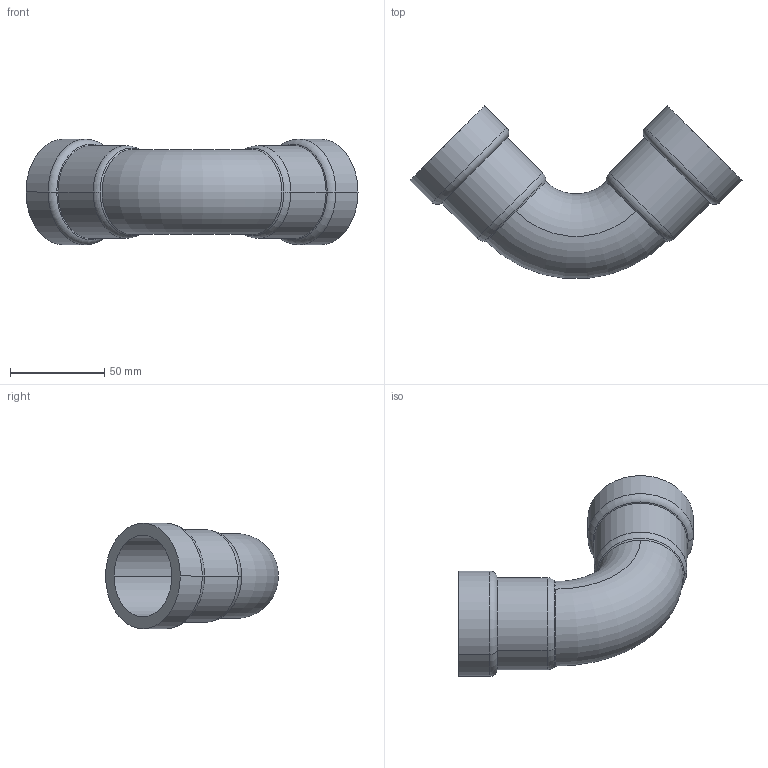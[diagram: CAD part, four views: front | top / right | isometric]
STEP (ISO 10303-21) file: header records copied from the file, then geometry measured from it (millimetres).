
FILE_DESCRIPTION(('Creo Elements/Direct Modeling STEP Export'),'2;1');
FILE_NAME('C9408_1-1-4.stp','2020-06-23T14:52:43',(''),(''),'PTC Creo Elements/Direct Modeling STEP processor for AP214 (Solid Model)','PTC Creo Elements/Direct Modeling 19.0C 15-Aug-2015 (C) Parametric Technology GmbH','');
FILE_SCHEMA(('AUTOMOTIVE_DESIGN { 1 0 10303 214 1 1 1 1 }'));
Length unit declared in the file: millimetre
Products named in the file (1): 9408
Bounding box: 176.1 x 91.65 x 56 mm (x, y, z)
Volume: 94068.8 mm3; surface area: 52584.7 mm2
Topology: 1 solids, 1 shells, 40 faces, 86 edges, 50 vertices
Faces by surface type: cylinder 16, torus 12, cone 8, plane 4
Entity records: 1593 total; most frequent: CARTESIAN_POINT 752, DIRECTION 176, ORIENTED_EDGE 172, EDGE_CURVE 86, AXIS2_PLACEMENT_3D 76, VERTEX_POINT 50, EDGE_LOOP 44, FACE_OUTER_BOUND 40
